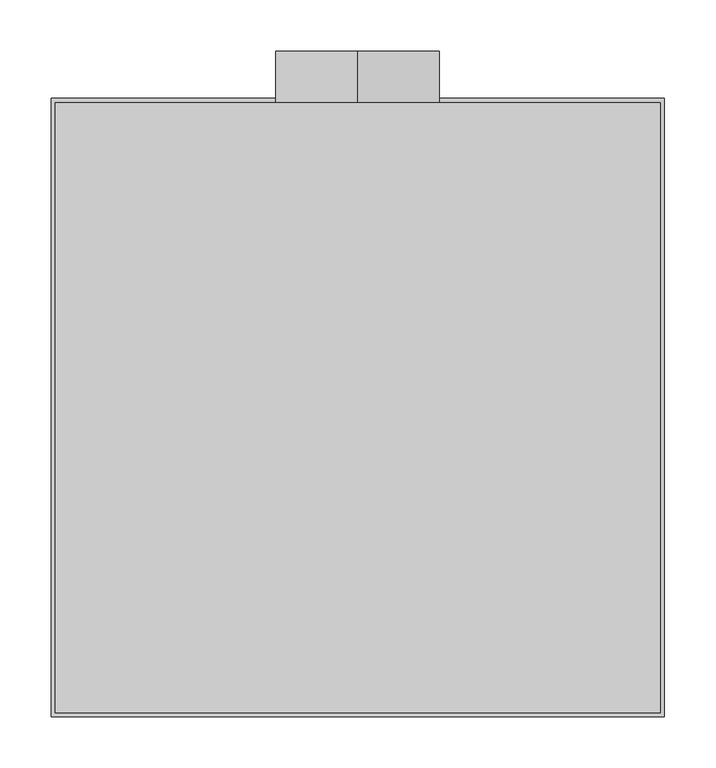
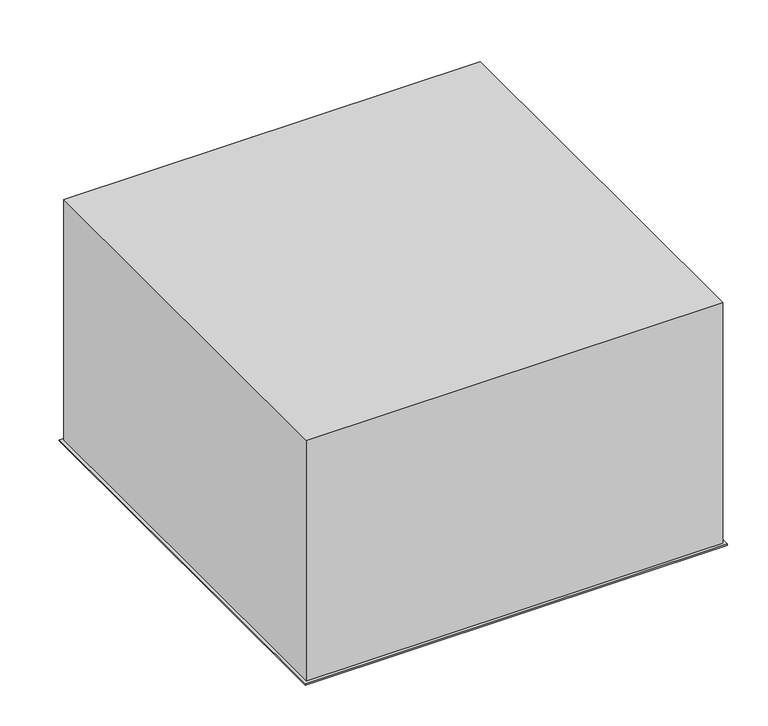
"""IFC4 building model written with IfcOpenShell, lengths in millimetres: air terminal geometry, EOL - plafonnier : EOL-P4-160-600x600."""

import ifcopenshell
import ifcopenshell.guid

model = None  # the IFC model being written
_history = None  # IfcOwnerHistory: only IFC2X3 demands one
_inside = {}  # id of a spatial element -> (the spatial element, [elements in it])
_under = {}  # id of a project, library or spatial element -> (it, [spatial elements below it])
_declared = {}  # id of a project -> (the project, [libraries it declares])
_typed = {}  # id of a type object -> (the type object, [elements of that type])
_made_of = {}  # id of a material, layer set ... -> (it, [elements and type objects made of it])


def new_model(schema):
    """Start an empty IFC model of exactly this schema.

    Asked for "IFC4X3", IfcOpenShell would pick the latest addendum, in which some entities
    have other attributes; the version numbers below select the first issue.
    IFC2X3 requires an IfcOwnerHistory on every rooted entity: one is made here for all.
    """
    global model, _history
    if schema == "IFC4X3":
        model = ifcopenshell.file(schema_version=(4, 3, 0, 0))
    else:
        model = ifcopenshell.file(schema=schema)
    _inside.clear()
    _under.clear()
    _declared.clear()
    _typed.clear()
    _made_of.clear()
    _history = None
    if model.schema == "IFC2X3":
        org = make("IfcOrganization", Name="unknown")
        user = make(
            "IfcPersonAndOrganization",
            ThePerson=make("IfcPerson", FamilyName="unknown"),
            TheOrganization=org,
        )
        app = make(
            "IfcApplication",
            ApplicationDeveloper=org,
            Version="unknown",
            ApplicationFullName="unknown",
            ApplicationIdentifier="unknown",
        )
        _history = make(
            "IfcOwnerHistory",
            OwningUser=user,
            OwningApplication=app,
            ChangeAction="ADDED",
            CreationDate=0,
        )
    return model


def make(cls, **values):
    """One entity of the class cls with the attributes given. An attribute that is None is left unset."""
    return model.create_entity(
        cls, **{name: value for name, value in values.items() if value is not None}
    )


def rooted(cls, **values):
    """An entity with a GlobalId (a new one), such as an element, a storey or a relation."""
    return make(cls, GlobalId=ifcopenshell.guid.new(), OwnerHistory=_history, **values)


def si_unit(unit_type, name, prefix=None):
    """IfcSIUnit, for example si_unit("LENGTHUNIT", "METRE", prefix="MILLI")."""
    return make("IfcSIUnit", UnitType=unit_type, Prefix=prefix, Name=name)


def assignment(units):
    """IfcUnitAssignment: the units of a project."""
    return None if units is None else make("IfcUnitAssignment", Units=units)


def point(xyz):
    """IfcCartesianPoint."""
    return None if xyz is None else make("IfcCartesianPoint", Coordinates=xyz)


def direction(xyz):
    """IfcDirection."""
    return None if xyz is None else make("IfcDirection", DirectionRatios=xyz)


def frame(location, z_axis=None, x_axis=None):
    """IfcAxis2Placement3D, a coordinate frame: its origin and axes. An axis left out is left unset."""
    return make(
        "IfcAxis2Placement3D",
        Location=point(location),
        Axis=direction(z_axis),
        RefDirection=direction(x_axis),
    )


def frame_2d(location, x_axis=None):
    """IfcAxis2Placement2D, a coordinate frame in the plane: its origin and x axis."""
    return make(
        "IfcAxis2Placement2D", Location=point(location), RefDirection=direction(x_axis)
    )


def origin():
    """The frame at (0, 0, 0) with its axes left unset."""
    return frame((0.0, 0.0, 0.0))


def place(relative_to, where):
    """IfcLocalPlacement: puts the frame where relative to a parent placement (None: the world)."""
    return make(
        "IfcLocalPlacement", PlacementRelTo=relative_to, RelativePlacement=where
    )


def context(
    kind, dimensions, precision=None, world=None, true_north=None, identifier=None
):
    """IfcGeometricRepresentationContext, for example the 3D "Model" context."""
    return make(
        "IfcGeometricRepresentationContext",
        ContextIdentifier=identifier,
        ContextType=kind,
        CoordinateSpaceDimension=dimensions,
        Precision=precision,
        WorldCoordinateSystem=world,
        TrueNorth=true_north,
    )


def project(units=None, contexts=None):
    """IfcProject with its units and contexts."""
    return rooted(
        "IfcProject",
        Name="project",
        RepresentationContexts=contexts,
        UnitsInContext=assignment(units),
    )


def spatial(cls, under=None, at=None, **own):
    """A site, building, storey or space (cls), placed at a placement, below another one or the project."""
    s = rooted(cls, ObjectPlacement=at, **own)
    if under is not None:
        _under.setdefault(under.id(), (under, []))[1].append(s)
    return s


def polyline(points):
    """IfcPolyline through the points."""
    return make("IfcPolyline", Points=[point(p) for p in points])


def circle_curve(where, radius):
    """IfcCircle in the frame where."""
    return make("IfcCircle", Position=where, Radius=radius)


def ellipse_curve(where, semi_axis1, semi_axis2):
    """IfcEllipse in the frame where."""
    return make(
        "IfcEllipse", Position=where, SemiAxis1=semi_axis1, SemiAxis2=semi_axis2
    )


def trimmed(basis, trim1, trim2, sense, master):
    """IfcTrimmedCurve: the piece of a basis curve between two trims."""
    return make(
        "IfcTrimmedCurve",
        BasisCurve=basis,
        Trim1=trim1,
        Trim2=trim2,
        SenseAgreement=sense,
        MasterRepresentation=master,
    )


def segment(curve, same_sense, transition):
    """IfcCompositeCurveSegment."""
    return make(
        "IfcCompositeCurveSegment",
        Transition=transition,
        SameSense=same_sense,
        ParentCurve=curve,
    )


def composite_curve(segments, self_intersect=None):
    """IfcCompositeCurve: segments joined end to end."""
    return make("IfcCompositeCurve", Segments=segments, SelfIntersect=self_intersect)


def outline(outer, holes=None, kind="AREA"):
    """IfcArbitraryClosedProfileDef: a profile drawn as a closed curve; with holes, ...WithVoids."""
    if holes is None:
        return make("IfcArbitraryClosedProfileDef", ProfileType=kind, OuterCurve=outer)
    return make(
        "IfcArbitraryProfileDefWithVoids",
        ProfileType=kind,
        OuterCurve=outer,
        InnerCurves=holes,
    )


def extrude(swept, where, along, depth):
    """IfcExtrudedAreaSolid: the profile swept, set in the frame where, extruded along a direction by depth."""
    return make(
        "IfcExtrudedAreaSolid",
        SweptArea=swept,
        Position=where,
        ExtrudedDirection=direction(along),
        Depth=depth,
    )


def shape(context_of_items, identifier, shape_type, items):
    """IfcShapeRepresentation: the items that make up one representation, for example the "Body"."""
    return make(
        "IfcShapeRepresentation",
        ContextOfItems=context_of_items,
        RepresentationIdentifier=identifier,
        RepresentationType=shape_type,
        Items=items,
    )


def source(mapping_origin, context_of_items, identifier, shape_type, items):
    """IfcRepresentationMap: a shape defined once, which mapped items show again and again."""
    return make(
        "IfcRepresentationMap",
        MappingOrigin=mapping_origin,
        MappedRepresentation=shape(context_of_items, identifier, shape_type, items),
    )


def transform(
    local_origin,
    x_axis=None,
    y_axis=None,
    z_axis=None,
    scale=None,
    scale2=None,
    scale3=None,
    uniform=True,
):
    """IfcCartesianTransformationOperator3D, or its non-uniform kind. x_axis, y_axis, z_axis: its Axis1, 2, 3."""
    if uniform:
        return make(
            "IfcCartesianTransformationOperator3D",
            Axis1=direction(x_axis),
            Axis2=direction(y_axis),
            LocalOrigin=point(local_origin),
            Scale=scale,
            Axis3=direction(z_axis),
        )
    return make(
        "IfcCartesianTransformationOperator3DnonUniform",
        Axis1=direction(x_axis),
        Axis2=direction(y_axis),
        LocalOrigin=point(local_origin),
        Scale=scale,
        Axis3=direction(z_axis),
        Scale2=scale2,
        Scale3=scale3,
    )


def mapped(mapping_source, mapping_target):
    """IfcMappedItem: shows the shape of a source again, moved by a transform."""
    return make(
        "IfcMappedItem", MappingSource=mapping_source, MappingTarget=mapping_target
    )


def made_of(thing, what):
    """Note that an element or type object is made of a material, layer set ...; save() writes the relation."""
    if what is not None:
        _made_of.setdefault(what.id(), (what, []))[1].append(thing)
    return thing


def element(
    cls,
    number,
    at=None,
    inside=None,
    cuts=None,
    type_object=None,
    material=None,
    context=None,
    identifier="Body",
    shape_type=None,
    held_by="IfcProductDefinitionShape",
    body=None,
    shapes=None,
    **own,
):
    """One element of the class cls, such as IfcWall. Its Tag is "e" and its number.

    at: its placement. inside: the storey or other place that contains it. cuts: it is an
    opening in that element (IfcRelVoidsElement). A single representation is given by context,
    identifier, shape_type and body (its items); several are given by shapes. held_by: the class
    of the entity that holds the representations. save() writes the other relations.
    """
    e = rooted(cls, Tag="e%d" % number, ObjectPlacement=at, **own)
    if body is not None:
        shapes = [shape(context, identifier, shape_type, body)]
    if shapes is not None:
        e.Representation = make(held_by, Representations=shapes)
    if inside is not None:
        _inside.setdefault(inside.id(), (inside, []))[1].append(e)
    if cuts is not None:
        rooted(
            "IfcRelVoidsElement", RelatingBuildingElement=cuts, RelatedOpeningElement=e
        )
    if type_object is not None:
        _typed.setdefault(type_object.id(), (type_object, []))[1].append(e)
    return made_of(e, material)


def aggregate(whole, parts):
    """IfcRelAggregates: a whole, such as a stair, and the parts it consists of."""
    return rooted("IfcRelAggregates", RelatingObject=whole, RelatedObjects=parts)


def save(model, path):
    """Write the relations noted so far, then the file.

    IfcRelAggregates (storeys below a building ...), IfcRelContainedInSpatialStructure (elements
    in a storey), IfcRelDefinesByType, IfcRelAssociatesMaterial and IfcRelDeclares: one each for
    every whole, place, type object, material and project.
    """
    for whole, parts in _under.values():
        aggregate(whole, parts)
    for where, things in _inside.values():
        rooted(
            "IfcRelContainedInSpatialStructure",
            RelatedElements=things,
            RelatingStructure=where,
        )
    for kind, things in _typed.values():
        rooted("IfcRelDefinesByType", RelatedObjects=things, RelatingType=kind)
    for what, things in _made_of.values():
        rooted("IfcRelAssociatesMaterial", RelatedObjects=things, RelatingMaterial=what)
    for by, libraries in _declared.values():
        rooted("IfcRelDeclares", RelatingContext=by, RelatedDefinitions=libraries)
    model.write(path)


def plane_surface(at):
    """IfcPlane: the flat surface through the origin of the frame at, square to its z axis."""
    return make("IfcPlane", Position=at)


def cylinder_surface(at, radius):
    """IfcCylindricalSurface: all points at the distance radius from the z axis of the frame at."""
    return make("IfcCylindricalSurface", Position=at, Radius=radius)


def revolved_surface(curve, axis_point, axis_direction):
    """IfcSurfaceOfRevolution: the curve turned about the line through axis_point along axis_direction."""
    return make(
        "IfcSurfaceOfRevolution",
        SweptCurve=make("IfcArbitraryOpenProfileDef", ProfileType="CURVE", Curve=curve),
        AxisPosition=make("IfcAxis1Placement", Location=point(axis_point), Axis=direction(axis_direction)),
    )


def advanced_brep(points, edges, surfaces, faces):
    """IfcAdvancedBrep: a solid bounded by faces that lie on surfaces and meet in shared edges.

    An edge is (start, end): straight between two places in points (the first is 0);
    or (start, end, curve); or (start, end, curve, False) where it runs against its curve.
    A face is (place in surfaces, loops), or (place, loops, False) where it looks against
    its surface's normal. A loop lists edges by number (the first is 1), with a minus sign
    where the edge is run from its end to its start. The first loop is the outer one.
    """
    corners = [point(p) for p in points]
    vertices = [make("IfcVertexPoint", VertexGeometry=c) for c in corners]
    made = []
    for start, end, *more in edges:
        made.append(
            make(
                "IfcEdgeCurve",
                EdgeStart=vertices[start],
                EdgeEnd=vertices[end],
                EdgeGeometry=more[0] if more else make("IfcPolyline", Points=[corners[start], corners[end]]),
                SameSense=more[1] if len(more) > 1 else True,
            )
        )
    hull = []
    for where, loops, *sense in faces:
        bounds = []
        for j, loop in enumerate(loops):
            ring = [make("IfcOrientedEdge", EdgeElement=made[abs(k) - 1], Orientation=k > 0) for k in loop]
            bounds.append(
                make(
                    "IfcFaceOuterBound" if j == 0 else "IfcFaceBound",
                    Bound=make("IfcEdgeLoop", EdgeList=ring),
                    Orientation=True,
                )
            )
        hull.append(make("IfcAdvancedFace", Bounds=bounds, FaceSurface=surfaces[where], SameSense=sense[0] if sense else True))
    return make("IfcAdvancedBrep", Outer=make("IfcClosedShell", CfsFaces=hull))


def air_terminal_68dc9de8(model_context):
    return source(origin(), model_context, "Body", "SolidModel", [
        advanced_brep(
        [(42.3125856, 336.1251712, 26.7), (70.0, 363.8125856, 1.0), (70.0, 221.1874144, 1.0), (42.3125856, 248.8748288, 26.7), (42.3125856, 336.1251712, 35.0), (42.3125856, 248.8748288, 35.0), (43.3125856, 337.1251712, 26.77286), (43.3125856, 337.1251712, 35.0), (43.3125856, 247.8748288, 35.0), (43.3125856, 247.8748288, 26.77286), (70.0, 363.8125856, 2.0025269), (70.0, 221.1874144, 2.0025269), (-70.0, 221.1874144, 1.0), (-42.3125856, 248.8748288, 26.7), (-42.3125856, 248.8748288, 35.0), (-43.3125856, 247.8748288, 35.0), (-43.3125856, 247.8748288, 26.77286), (-70.0, 221.1874144, 2.0025269), (-70.0, 363.8125856, 1.0), (-42.3125856, 336.1251712, 26.7), (-42.3125856, 336.1251712, 35.0), (-43.3125856, 337.1251712, 35.0), (-43.3125856, 337.1251712, 26.77286), (-70.0, 363.8125856, 2.0025269)],
        [
            (0, 1, ellipse_curve(frame((72.1, 365.9125856, 31.0266548), z_axis=(0.7071067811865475, -0.7071067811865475, 0.0), x_axis=(0.7071067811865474, 0.7071067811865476, 0.0)), 42.5678282, 30.1)),
            (1, 2),
            (2, 3, ellipse_curve(frame((72.1, 219.0874144, 31.0266548), z_axis=(0.7071067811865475, 0.7071067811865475, 0.0), x_axis=(-0.7071067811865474, 0.7071067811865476, 0.0)), 42.5678282, 30.1)),
            (3, 0),
            (4, 0),
            (3, 5),
            (5, 4),
            (6, 7),
            (7, 8),
            (8, 9),
            (9, 6),
            (10, 6, ellipse_curve(frame((72.1, 365.9125856, 31.0266548), z_axis=(-0.7071067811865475, 0.7071067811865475, 0.0), x_axis=(-0.7071067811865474, -0.7071067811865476, 0.0)), 41.1536147, 29.1)),
            (9, 11, ellipse_curve(frame((72.1, 219.0874144, 31.0266548), z_axis=(-0.7071067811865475, -0.7071067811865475, 0.0), x_axis=(0.7071067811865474, -0.7071067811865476, 0.0)), 41.1536147, 29.1)),
            (11, 10),
            (1, 10),
            (11, 2),
            (2, 12),
            (12, 13, ellipse_curve(frame((-72.1, 219.0874144, 31.0266548), z_axis=(0.7071067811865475, -0.7071067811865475, 0.0), x_axis=(0.7071067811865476, 0.7071067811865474, 0.0)), 42.5678282, 30.1)),
            (13, 3),
            (13, 14),
            (14, 5),
            (8, 15),
            (15, 16),
            (16, 9),
            (16, 17, ellipse_curve(frame((-72.1, 219.0874144, 31.0266548), z_axis=(-0.7071067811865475, 0.7071067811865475, 0.0), x_axis=(-0.7071067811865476, -0.7071067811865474, 0.0)), 41.1536147, 29.1)),
            (17, 11),
            (17, 12),
            (12, 18),
            (18, 19, ellipse_curve(frame((-72.1, 365.9125856, 31.0266548), z_axis=(-0.7071067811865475, -0.7071067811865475, 0.0), x_axis=(0.7071067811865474, -0.7071067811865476, 0.0)), 42.5678282, 30.1)),
            (19, 13),
            (19, 20),
            (20, 14),
            (15, 21),
            (21, 22),
            (22, 16),
            (22, 23, ellipse_curve(frame((-72.1, 365.9125856, 31.0266548), z_axis=(0.7071067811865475, 0.7071067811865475, 0.0), x_axis=(-0.7071067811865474, 0.7071067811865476, 0.0)), 41.1536147, 29.1)),
            (23, 17),
            (23, 18),
            (18, 1),
            (0, 19),
            (4, 20),
            (7, 21),
            (6, 22),
            (10, 23),
        ],
        [
            cylinder_surface(frame((72.1, 335.8125856, 31.0266548), z_axis=(0.0, 1.0, 0.0), x_axis=(1.0, 0.0, 0.0)), 30.1),
            plane_surface(frame((42.3125856, 336.1251712, 26.7), z_axis=(-1.0, 0.0, 0.0), x_axis=(0.0, -1.0, 0.0))),
            plane_surface(frame((43.3125856, 337.1251712, 35.0), z_axis=(1.0, 0.0, 0.0), x_axis=(0.0, -1.0, 0.0))),
            revolved_surface(polyline([(101.19999999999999, 189.98741437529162, 31.0266548), (101.19999999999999, 395.0125856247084, 31.0266548)]), (72.1, 335.8125856, 31.0266548), (0.0, -1.0, 0.0)),
            plane_surface(frame((70.0, 363.8125856, 2.0025269), z_axis=(1.0, 0.0, 0.0), x_axis=(0.0, -1.0, 0.0))),
            cylinder_surface(frame((42.0, 219.0874144, 31.0266548), z_axis=(1.0, 0.0, 0.0), x_axis=(0.0, -1.0, 0.0)), 30.1),
            plane_surface(frame((42.3125856, 248.8748288, 26.7), z_axis=(0.0, 1.0, 0.0), x_axis=(-1.0, 0.0, 0.0))),
            plane_surface(frame((43.3125856, 247.8748288, 35.0), z_axis=(0.0, -1.0, 0.0), x_axis=(-1.0, 0.0, 0.0))),
            revolved_surface(polyline([(-101.20000002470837, 189.9874144, 31.0266548), (101.20000002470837, 189.9874144, 31.0266548)]), (42.0, 219.0874144, 31.0266548), (-1.0, 0.0, 0.0)),
            plane_surface(frame((70.0, 221.1874144, 2.0025269), z_axis=(0.0, -1.0, 0.0), x_axis=(-1.0, 0.0, 0.0))),
            cylinder_surface(frame((-72.1, 249.1874144, 31.0266548), z_axis=(0.0, -1.0, 0.0), x_axis=(-1.0, 0.0, 0.0)), 30.1),
            plane_surface(frame((-42.3125856, 248.8748288, 26.7), z_axis=(1.0, 0.0, 0.0), x_axis=(0.0, 1.0, 0.0))),
            plane_surface(frame((-43.3125856, 247.8748288, 35.0), z_axis=(-1.0, 0.0, 0.0), x_axis=(0.0, 1.0, 0.0))),
            revolved_surface(polyline([(-101.19999999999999, 395.0125856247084, 31.0266548), (-101.19999999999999, 189.98741437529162, 31.0266548)]), (-72.1, 249.1874144, 31.0266548), (0.0, 1.0, 0.0)),
            plane_surface(frame((-70.0, 221.1874144, 2.0025269), z_axis=(-1.0, 0.0, 0.0), x_axis=(0.0, 1.0, 0.0))),
            cylinder_surface(frame((-42.0, 365.9125856, 31.0266548), z_axis=(-1.0, 0.0, 0.0), x_axis=(0.0, 1.0, 0.0)), 30.1),
            plane_surface(frame((-42.3125856, 336.1251712, 26.7), z_axis=(0.0, -1.0, 0.0), x_axis=(1.0, 0.0, 0.0))),
            plane_surface(frame((-42.3125856, 336.1251712, 35.0), z_axis=(0.0, 0.0, 1.0), x_axis=(1.0, 0.0, 0.0))),
            plane_surface(frame((-43.3125856, 337.1251712, 35.0), z_axis=(0.0, 1.0, 0.0), x_axis=(1.0, 0.0, 0.0))),
            revolved_surface(polyline([(101.20000002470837, 395.0125856, 31.0266548), (-101.20000002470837, 395.0125856, 31.0266548)]), (-42.0, 365.9125856, 31.0266548), (1.0, 0.0, 0.0)),
            plane_surface(frame((-70.0, 363.8125856, 2.0025269), z_axis=(0.0, 1.0, 0.0), x_axis=(1.0, 0.0, 0.0))),
        ],
        [
            (0, [[1, 2, 3, 4]]),
            (1, [[5, -4, 6, 7]]),
            (2, [[8, 9, 10, 11]]),
            (3, [[12, -11, 13, 14]]),
            (4, [[15, -14, 16, -2]]),
            (5, [[-3, 17, 18, 19]]),
            (6, [[-6, -19, 20, 21]]),
            (7, [[-10, 22, 23, 24]]),
            (8, [[-13, -24, 25, 26]]),
            (9, [[-16, -26, 27, -17]]),
            (10, [[-18, 28, 29, 30]]),
            (11, [[-20, -30, 31, 32]]),
            (12, [[-23, 33, 34, 35]]),
            (13, [[-25, -35, 36, 37]]),
            (14, [[-27, -37, 38, -28]]),
            (15, [[-29, 39, -1, 40]]),
            (16, [[-31, -40, -5, 41]]),
            (17, [[42, -33, -22, -9], [-21, -32, -41, -7]]),
            (18, [[-34, -42, -8, 43]]),
            (19, [[-36, -43, -12, 44]]),
            (20, [[-38, -44, -15, -39]]),
        ],
    ),
        extrude(outline(polyline([(299.0, 594.0), (299.0, -9.0), (-299.0, -9.0), (-299.0, 594.0), (299.0, 594.0)]), holes=[polyline([(290.0, 585.0), (-290.0, 585.0), (-290.0, 0.0), (290.0, 0.0), (290.0, 585.0)])]), frame((0.0, 0.0, -2.0), z_axis=(0.0, 0.0, 1.0), x_axis=(1.0, 0.0, 0.0)), (0.0, 0.0, 1.0), 2.0),
        extrude(outline(composite_curve([segment(trimmed(circle_curve(frame_2d((241.0, 0.0)), 80.0), [point((161.0, 0.0))], [point((321.0, 0.0))], False, "CARTESIAN"), True, "CONTINUOUS"), segment(trimmed(circle_curve(frame_2d((241.0, 0.0)), 80.0), [point((321.0, 0.0))], [point((161.0, 0.0))], False, "CARTESIAN"), True, "CONTINUOUS")], self_intersect=False), holes=[composite_curve([segment(trimmed(circle_curve(frame_2d((241.0, 0.0)), 79.0), [point((241.0, 79.0))], [point((241.0, -79.0))], True, "CARTESIAN"), True, "CONTINUOUS"), segment(trimmed(circle_curve(frame_2d((241.0, 0.0)), 79.0), [point((241.0, -79.0))], [point((241.0, 79.0))], True, "CARTESIAN"), True, "CONTINUOUS")], self_intersect=False)]), frame((0.0, 590.0, 0.0), z_axis=(0.0, 1.0, 0.0), x_axis=(0.0, 0.0, 1.0)), (0.0, 0.0, 1.0), 50.0),
        advanced_brep(
        [(295.0, 590.0, 361.0), (-295.0, 590.0, 361.0), (-295.0, -5.0, 361.0), (295.0, -5.0, 361.0), (295.0, 590.0, 0.0), (295.0, -5.0, 0.0), (-295.0, -5.0, 0.0), (-295.0, 590.0, 0.0), (290.0, 585.0, 0.0), (-290.0, 585.0, 0.0), (-290.0, 0.0, 0.0), (290.0, 0.0, 0.0), (-79.0, 590.0, 241.0), (79.0, 590.0, 241.0), (290.0, 585.0, 356.0), (290.0, 0.0, 356.0), (-290.0, 0.0, 356.0), (-290.0, 585.0, 356.0), (79.0, 585.0, 241.0), (-79.0, 585.0, 241.0)],
        [
            (0, 1),
            (1, 2),
            (2, 3),
            (3, 0),
            (4, 5),
            (5, 6),
            (6, 7),
            (7, 4),
            (8, 9),
            (9, 10),
            (10, 11),
            (11, 8),
            (0, 4),
            (7, 1),
            (12, 13, circle_curve(frame((0.0, 590.0, 241.0), z_axis=(0.0, -1.0, 0.0), x_axis=(1.0, 0.0, 0.0)), 79.0)),
            (13, 12, circle_curve(frame((0.0, 590.0, 241.0), z_axis=(0.0, -1.0, 0.0), x_axis=(1.0, 0.0, 0.0)), 79.0)),
            (6, 2),
            (5, 3),
            (14, 15),
            (15, 16),
            (16, 17),
            (17, 14),
            (17, 9),
            (8, 14),
            (18, 19, circle_curve(frame((0.0, 585.0, 241.0), z_axis=(0.0, 1.0, 0.0), x_axis=(1.0, 0.0, 0.0)), 79.0)),
            (19, 18, circle_curve(frame((0.0, 585.0, 241.0), z_axis=(0.0, 1.0, 0.0), x_axis=(1.0, 0.0, 0.0)), 79.0)),
            (16, 10),
            (15, 11),
            (12, 19),
            (18, 13),
        ],
        [
            plane_surface(frame((-295.0, 590.0, 361.0), z_axis=(0.0, 0.0, 1.0), x_axis=(-1.0, 0.0, 0.0))),
            plane_surface(frame((-295.0, 590.0, 0.0), z_axis=(0.0, 0.0, -1.0), x_axis=(1.0, 0.0, 0.0))),
            plane_surface(frame((295.0, 590.0, 361.0), z_axis=(0.0, 1.0, 0.0), x_axis=(0.0, 0.0, -1.0))),
            plane_surface(frame((-295.0, 590.0, 361.0), z_axis=(-1.0, 0.0, 0.0), x_axis=(0.0, 0.0, -1.0))),
            plane_surface(frame((-295.0, -5.0, 361.0), z_axis=(0.0, -1.0, 0.0), x_axis=(0.0, 0.0, -1.0))),
            plane_surface(frame((295.0, -5.0, 361.0), z_axis=(1.0, 0.0, 0.0), x_axis=(0.0, 0.0, -1.0))),
            plane_surface(frame((-290.0, 585.0, 356.0), z_axis=(0.0, 0.0, -1.0), x_axis=(-1.0, 0.0, 0.0))),
            plane_surface(frame((290.0, 585.0, 356.0), z_axis=(0.0, -1.0, 0.0), x_axis=(0.0, 0.0, -1.0))),
            plane_surface(frame((-290.0, 585.0, 356.0), z_axis=(1.0, 0.0, 0.0), x_axis=(0.0, 0.0, -1.0))),
            plane_surface(frame((-290.0, 0.0, 356.0), z_axis=(0.0, 1.0, 0.0), x_axis=(0.0, 0.0, -1.0))),
            plane_surface(frame((290.0, 0.0, 356.0), z_axis=(-1.0, 0.0, 0.0), x_axis=(0.0, 0.0, -1.0))),
            revolved_surface(polyline([(79.0, 585.0, 241.0), (79.0, 590.0, 241.0)]), (0.0, 640.0, 241.0), (0.0, -1.0, 0.0)),
        ],
        [
            (0, [[1, 2, 3, 4]]),
            (1, [[5, 6, 7, 8], [9, 10, 11, 12]]),
            (2, [[-1, 13, -8, 14], [15, 16]]),
            (3, [[-2, -14, -7, 17]]),
            (4, [[-3, -17, -6, 18]]),
            (5, [[-4, -18, -5, -13]]),
            (6, [[19, 20, 21, 22]]),
            (7, [[-22, 23, -9, 24], [25, 26]]),
            (8, [[-21, 27, -10, -23]]),
            (9, [[-20, 28, -11, -27]]),
            (10, [[-19, -24, -12, -28]]),
            (11, [[29, -25, 30, -15]]),
            (11, [[-29, -16, -30, -26]]),
        ],
    ),
    ])


if __name__ == "__main__":
    model = new_model("IFC4")
    model_context = context("Model", 3, world=origin())
    ifc_project = project(units=[si_unit("LENGTHUNIT", "METRE", prefix="MILLI")], contexts=[model_context])
    site = spatial("IfcSite", under=ifc_project)
    building = spatial("IfcBuilding", under=site)
    placement = place(None, origin())
    air_terminal_shape = air_terminal_68dc9de8(model_context)
    element("IfcAirTerminal", 1, ObjectType="EOL - plafonnier : EOL-P4-160-600x600", at=placement, inside=building, context=model_context, shape_type="MappedRepresentation", body=[
        mapped(air_terminal_shape, transform((0.0, 0.0, 0.0), x_axis=(1.0, 0.0, 0.0), y_axis=(0.0, 1.0, 0.0), z_axis=(0.0, 0.0, 1.0))),
    ])
    save(model, "model.ifc")
